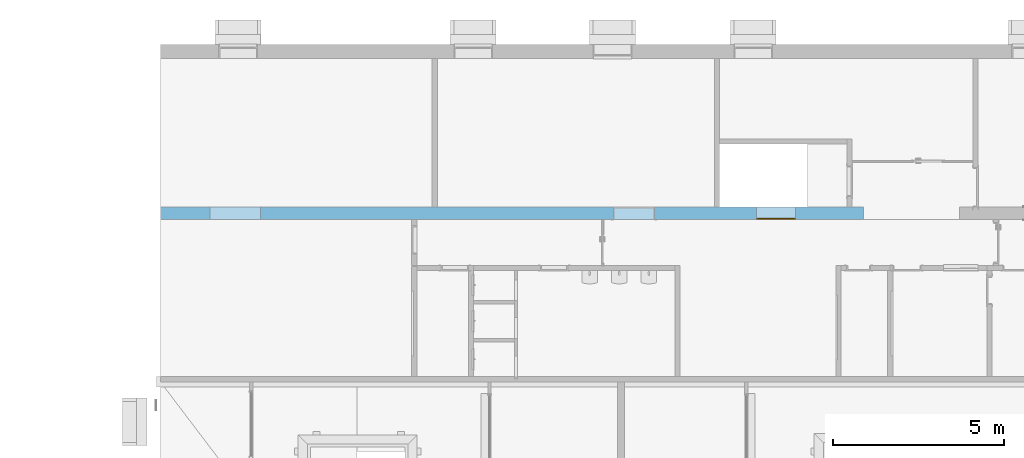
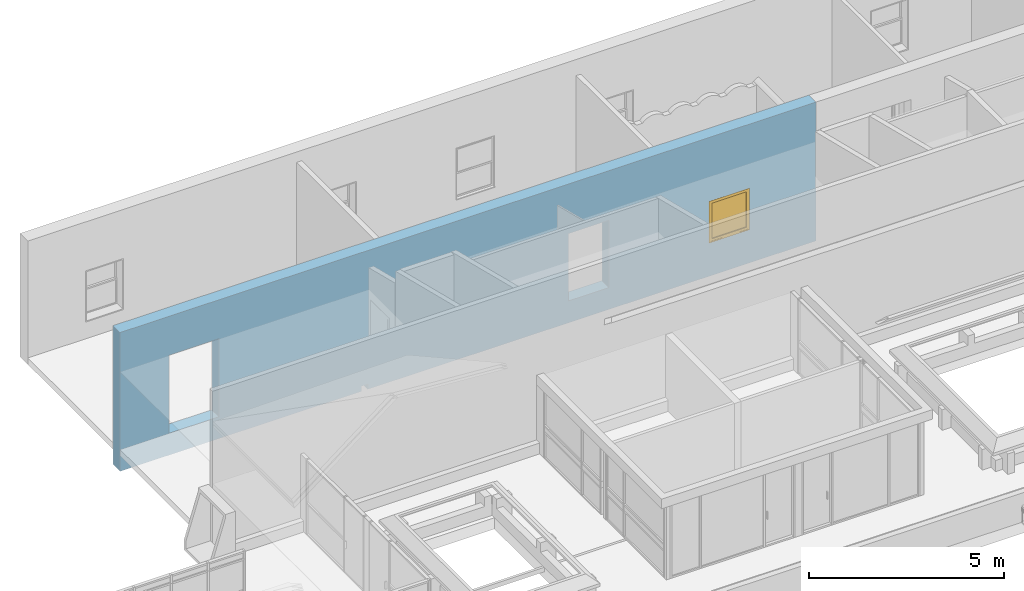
# One storey, part 139 of 153: 1 window, 4 openings, plus 1 element that does not belong to this part.
"""IFC4 building model written with IfcOpenShell, lengths in metres."""

import ifcopenshell
import ifcopenshell.guid

model = None  # the IFC model being written
_history = None  # IfcOwnerHistory: only IFC2X3 demands one
_inside = {}  # id of a spatial element -> (the spatial element, [elements in it])
_under = {}  # id of a project, library or spatial element -> (it, [spatial elements below it])
_declared = {}  # id of a project -> (the project, [libraries it declares])
_typed = {}  # id of a type object -> (the type object, [elements of that type])
_made_of = {}  # id of a material, layer set ... -> (it, [elements and type objects made of it])


def new_model(schema):
    """Start an empty IFC model of exactly this schema.

    Asked for "IFC4X3", IfcOpenShell would pick the latest addendum, in which some entities
    have other attributes; the version numbers below select the first issue.
    IFC2X3 requires an IfcOwnerHistory on every rooted entity: one is made here for all.
    """
    global model, _history
    if schema == "IFC4X3":
        model = ifcopenshell.file(schema_version=(4, 3, 0, 0))
    else:
        model = ifcopenshell.file(schema=schema)
    _inside.clear()
    _under.clear()
    _declared.clear()
    _typed.clear()
    _made_of.clear()
    _history = None
    if model.schema == "IFC2X3":
        org = make("IfcOrganization", Name="unknown")
        user = make(
            "IfcPersonAndOrganization",
            ThePerson=make("IfcPerson", FamilyName="unknown"),
            TheOrganization=org,
        )
        app = make(
            "IfcApplication",
            ApplicationDeveloper=org,
            Version="unknown",
            ApplicationFullName="unknown",
            ApplicationIdentifier="unknown",
        )
        _history = make(
            "IfcOwnerHistory",
            OwningUser=user,
            OwningApplication=app,
            ChangeAction="ADDED",
            CreationDate=0,
        )
    return model


def make(cls, **values):
    """One entity of the class cls with the attributes given. An attribute that is None is left unset."""
    return model.create_entity(
        cls, **{name: value for name, value in values.items() if value is not None}
    )


def entity(cls, *values):
    """Any entity or typed value of the class cls, its attributes in the order of the schema. None: left unset."""
    e = model.create_entity(cls)
    for i, value in enumerate(values):
        if value is not None:
            e[i] = value
    return e


def rooted(cls, **values):
    """An entity with a GlobalId (a new one), such as an element, a storey or a relation."""
    return make(cls, GlobalId=ifcopenshell.guid.new(), OwnerHistory=_history, **values)


def si_unit(unit_type, name, prefix=None):
    """IfcSIUnit, for example si_unit("LENGTHUNIT", "METRE", prefix="MILLI")."""
    return make("IfcSIUnit", UnitType=unit_type, Prefix=prefix, Name=name)


def converted_unit(unit_type, name, factor, base, dimensions=None, offset=None):
    """IfcConversionBasedUnit, such as the inch: factor (a typed value) times the base unit."""
    return make(
        "IfcConversionBasedUnit"
        if offset is None
        else "IfcConversionBasedUnitWithOffset",
        ConversionOffset=offset,
        Dimensions=None
        if dimensions is None
        else entity("IfcDimensionalExponents", *dimensions),
        UnitType=unit_type,
        Name=name,
        ConversionFactor=make(
            "IfcMeasureWithUnit", ValueComponent=factor, UnitComponent=base
        ),
    )


def derived_unit(unit_type, elements):
    """IfcDerivedUnit: a product of units, each with its exponent."""
    return make(
        "IfcDerivedUnit",
        Elements=[
            make("IfcDerivedUnitElement", Unit=unit, Exponent=power)
            for unit, power in elements
        ],
        UnitType=unit_type,
    )


def assignment(units):
    """IfcUnitAssignment: the units of a project."""
    return None if units is None else make("IfcUnitAssignment", Units=units)


def point(xyz):
    """IfcCartesianPoint."""
    return None if xyz is None else make("IfcCartesianPoint", Coordinates=xyz)


def direction(xyz):
    """IfcDirection."""
    return None if xyz is None else make("IfcDirection", DirectionRatios=xyz)


def frame(location, z_axis=None, x_axis=None):
    """IfcAxis2Placement3D, a coordinate frame: its origin and axes. An axis left out is left unset."""
    return make(
        "IfcAxis2Placement3D",
        Location=point(location),
        Axis=direction(z_axis),
        RefDirection=direction(x_axis),
    )


def origin():
    """The frame at (0, 0, 0) with its axes left unset."""
    return frame((0.0, 0.0, 0.0))


def place(relative_to, where):
    """IfcLocalPlacement: puts the frame where relative to a parent placement (None: the world)."""
    return make(
        "IfcLocalPlacement", PlacementRelTo=relative_to, RelativePlacement=where
    )


def context(
    kind, dimensions, precision=None, world=None, true_north=None, identifier=None
):
    """IfcGeometricRepresentationContext, for example the 3D "Model" context."""
    return make(
        "IfcGeometricRepresentationContext",
        ContextIdentifier=identifier,
        ContextType=kind,
        CoordinateSpaceDimension=dimensions,
        Precision=precision,
        WorldCoordinateSystem=world,
        TrueNorth=true_north,
    )


def subcontext(parent, identifier, kind, view, scale=None):
    """IfcGeometricRepresentationSubContext, for example "Body" below "Model"."""
    return make(
        "IfcGeometricRepresentationSubContext",
        ContextIdentifier=identifier,
        ContextType=kind,
        ParentContext=parent,
        TargetScale=scale,
        TargetView=view,
    )


def project(units=None, contexts=None):
    """IfcProject with its units and contexts."""
    return rooted(
        "IfcProject",
        Name="project",
        RepresentationContexts=contexts,
        UnitsInContext=assignment(units),
    )


def spatial(cls, under=None, at=None, **own):
    """A site, building, storey or space (cls), placed at a placement, below another one or the project."""
    s = rooted(cls, ObjectPlacement=at, **own)
    if under is not None:
        _under.setdefault(under.id(), (under, []))[1].append(s)
    return s


def point_list(points):
    """IfcCartesianPointList2D or 3D."""
    cls = (
        "IfcCartesianPointList2D" if len(points[0]) == 2 else "IfcCartesianPointList3D"
    )
    return make(cls, CoordList=points)


def indexed_curve(points, segments=None, self_intersect=None):
    """IfcIndexedPolyCurve: lines and arcs through numbered points (the first is 1)."""
    return make(
        "IfcIndexedPolyCurve",
        Points=point_list(points),
        Segments=segments,
        SelfIntersect=self_intersect,
    )


def outline(outer, holes=None, kind="AREA"):
    """IfcArbitraryClosedProfileDef: a profile drawn as a closed curve; with holes, ...WithVoids."""
    if holes is None:
        return make("IfcArbitraryClosedProfileDef", ProfileType=kind, OuterCurve=outer)
    return make(
        "IfcArbitraryProfileDefWithVoids",
        ProfileType=kind,
        OuterCurve=outer,
        InnerCurves=holes,
    )


def extrude(swept, where, along, depth):
    """IfcExtrudedAreaSolid: the profile swept, set in the frame where, extruded along a direction by depth."""
    return make(
        "IfcExtrudedAreaSolid",
        SweptArea=swept,
        Position=where,
        ExtrudedDirection=direction(along),
        Depth=depth,
    )


def polygons(points, faces, closed=None, point_numbers=None):
    """IfcPolygonalFaceSet: a face is its outer loop, then its inner loops; points numbered from 1."""
    made = []
    for loops in faces:
        if len(loops) == 1:
            made.append(make("IfcIndexedPolygonalFace", CoordIndex=loops[0]))
        else:
            made.append(
                make(
                    "IfcIndexedPolygonalFaceWithVoids",
                    CoordIndex=loops[0],
                    InnerCoordIndices=loops[1:],
                )
            )
    return make(
        "IfcPolygonalFaceSet",
        Coordinates=point_list(points),
        Closed=closed,
        Faces=made,
        PnIndex=point_numbers,
    )


def shape(context_of_items, identifier, shape_type, items):
    """IfcShapeRepresentation: the items that make up one representation, for example the "Body"."""
    return make(
        "IfcShapeRepresentation",
        ContextOfItems=context_of_items,
        RepresentationIdentifier=identifier,
        RepresentationType=shape_type,
        Items=items,
    )


def source(mapping_origin, context_of_items, identifier, shape_type, items):
    """IfcRepresentationMap: a shape defined once, which mapped items show again and again."""
    return make(
        "IfcRepresentationMap",
        MappingOrigin=mapping_origin,
        MappedRepresentation=shape(context_of_items, identifier, shape_type, items),
    )


def transform(
    local_origin,
    x_axis=None,
    y_axis=None,
    z_axis=None,
    scale=None,
    scale2=None,
    scale3=None,
    uniform=True,
):
    """IfcCartesianTransformationOperator3D, or its non-uniform kind. x_axis, y_axis, z_axis: its Axis1, 2, 3."""
    if uniform:
        return make(
            "IfcCartesianTransformationOperator3D",
            Axis1=direction(x_axis),
            Axis2=direction(y_axis),
            LocalOrigin=point(local_origin),
            Scale=scale,
            Axis3=direction(z_axis),
        )
    return make(
        "IfcCartesianTransformationOperator3DnonUniform",
        Axis1=direction(x_axis),
        Axis2=direction(y_axis),
        LocalOrigin=point(local_origin),
        Scale=scale,
        Axis3=direction(z_axis),
        Scale2=scale2,
        Scale3=scale3,
    )


def mapped(mapping_source, mapping_target):
    """IfcMappedItem: shows the shape of a source again, moved by a transform."""
    return make(
        "IfcMappedItem", MappingSource=mapping_source, MappingTarget=mapping_target
    )


def material(Name=None, Category=None):
    """IfcMaterial."""
    return make("IfcMaterial", Name=Name, Category=Category)


def constituent(of_material, Name=None, Category=None, fraction=None):
    """IfcMaterialConstituent: one of the materials an element consists of."""
    return make(
        "IfcMaterialConstituent",
        Name=Name,
        Material=of_material,
        Fraction=fraction,
        Category=Category,
    )


def constituent_set(constituents=None, Name=None):
    """IfcMaterialConstituentSet."""
    return make(
        "IfcMaterialConstituentSet", Name=Name, MaterialConstituents=constituents
    )


def made_of(thing, what):
    """Note that an element or type object is made of a material, layer set ...; save() writes the relation."""
    if what is not None:
        _made_of.setdefault(what.id(), (what, []))[1].append(thing)
    return thing


def type_object(cls, material=None, **own):
    """A type object (cls), such as IfcWallType, which elements share."""
    return made_of(rooted(cls, **own), material)


def type_shapes(of_type, sources):
    """Give a type object the sources (RepresentationMaps) that its elements show as mapped items."""
    of_type.RepresentationMaps = sources


def element(
    cls,
    number,
    at=None,
    inside=None,
    cuts=None,
    type_object=None,
    material=None,
    context=None,
    identifier="Body",
    shape_type=None,
    held_by="IfcProductDefinitionShape",
    body=None,
    shapes=None,
    **own,
):
    """One element of the class cls, such as IfcWall. Its Tag is "e" and its number.

    at: its placement. inside: the storey or other place that contains it. cuts: it is an
    opening in that element (IfcRelVoidsElement). A single representation is given by context,
    identifier, shape_type and body (its items); several are given by shapes. held_by: the class
    of the entity that holds the representations. save() writes the other relations.
    """
    e = rooted(cls, Tag="e%d" % number, ObjectPlacement=at, **own)
    if body is not None:
        shapes = [shape(context, identifier, shape_type, body)]
    if shapes is not None:
        e.Representation = make(held_by, Representations=shapes)
    if inside is not None:
        _inside.setdefault(inside.id(), (inside, []))[1].append(e)
    if cuts is not None:
        rooted(
            "IfcRelVoidsElement", RelatingBuildingElement=cuts, RelatedOpeningElement=e
        )
    if type_object is not None:
        _typed.setdefault(type_object.id(), (type_object, []))[1].append(e)
    return made_of(e, material)


def fill(opening, filler):
    """IfcRelFillsElement: the door or window that sits in an opening."""
    return rooted(
        "IfcRelFillsElement",
        RelatingOpeningElement=opening,
        RelatedBuildingElement=filler,
    )


def aggregate(whole, parts):
    """IfcRelAggregates: a whole, such as a stair, and the parts it consists of."""
    return rooted("IfcRelAggregates", RelatingObject=whole, RelatedObjects=parts)


def save(model, path):
    """Write the relations noted so far, then the file.

    IfcRelAggregates (storeys below a building ...), IfcRelContainedInSpatialStructure (elements
    in a storey), IfcRelDefinesByType, IfcRelAssociatesMaterial and IfcRelDeclares: one each for
    every whole, place, type object, material and project.
    """
    for whole, parts in _under.values():
        aggregate(whole, parts)
    for where, things in _inside.values():
        rooted(
            "IfcRelContainedInSpatialStructure",
            RelatedElements=things,
            RelatingStructure=where,
        )
    for kind, things in _typed.values():
        rooted("IfcRelDefinesByType", RelatedObjects=things, RelatingType=kind)
    for what, things in _made_of.values():
        rooted("IfcRelAssociatesMaterial", RelatedObjects=things, RelatingMaterial=what)
    for by, libraries in _declared.values():
        rooted("IfcRelDeclares", RelatingContext=by, RelatedDefinitions=libraries)
    model.write(path)


model = new_model("IFC4")

# Units and contexts
model_context = context("Model", 3, precision=1e-05, world=origin(), true_north=direction((6.123031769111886e-17, 1.0)))
body_context = subcontext(model_context, "Body", "Model", "MODEL_VIEW")
ifc_project = project(units=[si_unit("LENGTHUNIT", "METRE"), si_unit("AREAUNIT", "SQUARE_METRE"), si_unit("VOLUMEUNIT", "CUBIC_METRE"), converted_unit("PLANEANGLEUNIT", "DEGREE", entity("IfcRatioMeasure", 0.017453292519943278), si_unit("PLANEANGLEUNIT", "RADIAN"), dimensions=[0, 0, 0, 0, 0, 0, 0]), si_unit("MASSUNIT", "GRAM", prefix="KILO"), derived_unit("MASSDENSITYUNIT", [(si_unit("MASSUNIT", "GRAM", prefix="KILO"), 1), (si_unit("LENGTHUNIT", "METRE"), -3)]), derived_unit("MOMENTOFINERTIAUNIT", [(si_unit("LENGTHUNIT", "METRE"), 4)]), si_unit("TIMEUNIT", "SECOND"), si_unit("FREQUENCYUNIT", "HERTZ"), si_unit("THERMODYNAMICTEMPERATUREUNIT", "DEGREE_CELSIUS"), derived_unit("THERMALTRANSMITTANCEUNIT", [(si_unit("MASSUNIT", "GRAM", prefix="KILO"), 1), (si_unit("THERMODYNAMICTEMPERATUREUNIT", "KELVIN"), -1), (si_unit("TIMEUNIT", "SECOND"), -3)]), derived_unit("VOLUMETRICFLOWRATEUNIT", [(si_unit("LENGTHUNIT", "METRE"), 3), (si_unit("TIMEUNIT", "SECOND"), -1)]), derived_unit("MASSFLOWRATEUNIT", [(si_unit("MASSUNIT", "GRAM", prefix="KILO"), 1), (si_unit("TIMEUNIT", "SECOND"), -1)]), derived_unit("ROTATIONALFREQUENCYUNIT", [(si_unit("TIMEUNIT", "SECOND"), -1)]), si_unit("ELECTRICCURRENTUNIT", "AMPERE"), si_unit("ELECTRICVOLTAGEUNIT", "VOLT"), si_unit("POWERUNIT", "WATT"), si_unit("FORCEUNIT", "NEWTON", prefix="KILO"), si_unit("ILLUMINANCEUNIT", "LUX"), si_unit("LUMINOUSFLUXUNIT", "LUMEN"), si_unit("LUMINOUSINTENSITYUNIT", "CANDELA"), derived_unit("USERDEFINED", [(si_unit("MASSUNIT", "GRAM", prefix="KILO"), -1), (si_unit("LENGTHUNIT", "METRE"), -2), (si_unit("TIMEUNIT", "SECOND"), 3), (si_unit("LUMINOUSFLUXUNIT", "LUMEN"), 1)]), derived_unit("SOUNDPOWERUNIT", [(si_unit("MASSUNIT", "GRAM", prefix="KILO"), 1), (si_unit("LENGTHUNIT", "METRE"), 2), (si_unit("TIMEUNIT", "SECOND"), -3)]), derived_unit("SOUNDPRESSUREUNIT", [(si_unit("MASSUNIT", "GRAM", prefix="KILO"), 1), (si_unit("LENGTHUNIT", "METRE"), -1), (si_unit("TIMEUNIT", "SECOND"), -2)]), derived_unit("LINEARVELOCITYUNIT", [(si_unit("LENGTHUNIT", "METRE"), 1), (si_unit("TIMEUNIT", "SECOND"), -1)]), si_unit("PRESSUREUNIT", "PASCAL"), derived_unit("USERDEFINED", [(si_unit("LENGTHUNIT", "METRE"), -2), (si_unit("MASSUNIT", "GRAM", prefix="KILO"), 1), (si_unit("TIMEUNIT", "SECOND"), -2)]), derived_unit("LINEARFORCEUNIT", [(si_unit("MASSUNIT", "GRAM", prefix="KILO"), 1), (si_unit("LENGTHUNIT", "METRE"), 1), (si_unit("TIMEUNIT", "SECOND"), -2), (si_unit("LENGTHUNIT", "METRE"), -1)]), derived_unit("PLANARFORCEUNIT", [(si_unit("MASSUNIT", "GRAM", prefix="KILO"), 1), (si_unit("LENGTHUNIT", "METRE"), 1), (si_unit("TIMEUNIT", "SECOND"), -2), (si_unit("LENGTHUNIT", "METRE"), -2)])], contexts=[model_context])

# Site, building, storey
site_placement = place(None, origin())
site = spatial("IfcSite", under=ifc_project, at=site_placement, Name="Superficie", CompositionType="ELEMENT")
building_placement = place(site_placement, origin())
building = spatial("IfcBuilding", under=site, at=building_placement, CompositionType="ELEMENT")
storey_placement = place(building_placement, frame((0.0, 0.0, 3.5999999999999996)))
storey = spatial("IfcBuildingStorey", under=building, at=storey_placement, Name="Nivel 1", CompositionType="ELEMENT", Elevation=3.5999999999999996)

# Wall, openings, window
ifc_material_1 = material(Name="Muro por defecto", Category="Varios")
wall_type = type_object("IfcWallType", Name="Muro básico:Por defecto - 36 cm 2", PredefinedType="STANDARD")
wall_placement = place(storey_placement, frame((-22.643200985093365, 10.5508292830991, -0.16372451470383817)))
wall = element("IfcWall", 1, at=wall_placement, inside=storey, type_object=wall_type, material=ifc_material_1, Name="Muro básico:Por defecto - 36 cm 2", ObjectType="Muro básico:Por defecto - 36 cm 2", PredefinedType="NOTDEFINED", context=body_context, shape_type="Tessellation", body=[
    polygons([(1.4500000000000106, -0.18000000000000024, 3.122124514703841), (2.9200000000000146, -0.18000000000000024, 3.122124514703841), (2.9200000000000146, -0.18000000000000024, 0.6837245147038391), (1.4500000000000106, -0.18000000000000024, 0.6837245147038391), (13.244202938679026, -0.18000000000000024, 0.683724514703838), (13.244202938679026, -0.18000000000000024, 2.783724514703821), (14.444202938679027, -0.1800000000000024, 2.783724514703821), (14.444202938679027, -0.1800000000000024, 0.683724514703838), (20.55540000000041, -0.1800000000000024, -5.414335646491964e-16), (20.555400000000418, -0.1800000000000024, 0.16372451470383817), (20.555400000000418, -0.1800000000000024, 4.333724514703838), (2.5539128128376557e-15, -0.18000000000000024, 4.333724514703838), (6.885381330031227e-15, -0.18000000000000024, -5.414335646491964e-16), (7.139999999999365, -0.18000000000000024, -5.414335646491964e-16), (7.139999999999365, -0.18000000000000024, 0.16372451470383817), (7.319999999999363, -0.1800000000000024, 0.16372451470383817), (7.319999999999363, -0.1800000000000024, -5.414335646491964e-16), (18.574202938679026, -0.1800000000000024, 2.3137245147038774), (18.574202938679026, -0.1800000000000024, 1.0637245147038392), (17.424202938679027, -0.18000000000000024, 1.0637245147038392), (17.424202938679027, -0.18000000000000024, 2.3137245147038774), (2.9200000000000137, 0.18000000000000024, 3.122124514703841), (1.4500000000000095, 0.18000000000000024, 3.122124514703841), (1.4500000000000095, 0.18000000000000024, 0.6837245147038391), (2.9200000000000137, 0.18000000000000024, 0.6837245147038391), (13.244202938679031, 0.18000000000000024, 2.783724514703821), (13.244202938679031, 0.18000000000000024, 0.6837245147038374), (14.444202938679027, 0.17999999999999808, 0.683724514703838), (14.444202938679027, 0.17999999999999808, 2.783724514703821), (20.55540000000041, 0.17999999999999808, 4.333724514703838), (20.55540000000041, 0.17999999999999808, 0.16372451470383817), (20.555400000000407, 0.17999999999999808, -5.414335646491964e-16), (15.390000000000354, 0.18000000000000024, -5.414335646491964e-16), (15.390000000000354, 0.18000000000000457, 0.3637245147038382), (15.210000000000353, 0.1800000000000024, 0.3637245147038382), (15.210000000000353, 0.17999999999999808, -5.414335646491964e-16), (7.319999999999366, 0.17999999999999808, -5.414335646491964e-16), (7.319999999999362, 0.17999999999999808, 0.16372451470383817), (7.1399999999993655, 0.18000000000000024, 0.16372451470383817), (7.1399999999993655, 0.18000000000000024, -5.414335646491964e-16), (5.771177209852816e-15, 0.18000000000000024, -5.414335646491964e-16), (5.771177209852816e-15, 0.18000000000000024, 4.333724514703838), (18.574202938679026, 0.17999999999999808, 1.0637245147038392), (18.574202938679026, 0.17999999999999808, 2.3137245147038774), (17.424202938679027, 0.18000000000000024, 2.3137245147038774), (17.424202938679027, 0.18000000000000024, 1.0637245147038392), (15.390000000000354, -0.08287037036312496, 0.3637245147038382), (15.390000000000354, -0.08287037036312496, -5.414335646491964e-16), (15.210000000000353, -0.08287037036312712, 0.3637245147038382), (15.210000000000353, -0.08287037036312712, -5.414335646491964e-16)], [[[9, 10, 11, 12, 13, 14, 15, 16, 17], [1, 2, 3, 4], [5, 6, 7, 8], [18, 19, 20, 21]], [[30, 31, 32, 33, 34, 35, 36, 37, 38, 39, 40, 41, 42], [22, 23, 24, 25], [26, 27, 28, 29], [43, 44, 45, 46]], [[13, 41, 40, 14]], [[11, 10, 9, 32, 31, 30]], [[12, 11, 30, 42]], [[1, 23, 22, 2]], [[3, 25, 24, 4]], [[2, 22, 25, 3]], [[23, 1, 4, 24]], [[13, 12, 42, 41]], [[6, 5, 27, 26]], [[7, 6, 26, 29]], [[8, 7, 29, 28]], [[5, 8, 28, 27]], [[47, 34, 33, 48]], [[35, 49, 50, 36]], [[49, 47, 48, 50]], [[34, 47, 49, 35]], [[44, 43, 19, 18]], [[45, 44, 18, 21]], [[46, 45, 21, 20]], [[43, 46, 20, 19]], [[16, 38, 37, 17]], [[39, 15, 14, 40]], [[38, 16, 15, 39]], [[32, 9, 17, 37, 36, 50, 48, 33]]], closed=True),
])
opening_1_placement = place(storey_placement, frame((-22.643200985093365, 10.5508292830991, -0.16372451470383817)))
element("IfcOpeningElement", 2, at=opening_1_placement, cuts=wall, Name="Muro básico:Por defecto - 36 cm 2:1", PredefinedType="OPENING", context=body_context, shape_type="SweptSolid", body=[
    extrude(outline(indexed_curve([(-0.13143518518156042, -0.1818622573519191), (0.13143518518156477, -0.1818622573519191), (0.13143518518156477, 0.18186225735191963), (-0.13143518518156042, 0.18186225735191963), (-0.13143518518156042, -0.1818622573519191)], self_intersect=False)), frame((15.210000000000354, 0.048564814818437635, 0.1818622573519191), z_axis=(1.0, 0.0, 0.0), x_axis=(0.0, -1.0, 0.0)), (0.0, 0.0, 1.0), 0.18000000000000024),
])
opening_2_placement = place(wall_placement, origin())
element("IfcOpeningElement", 3, at=opening_2_placement, cuts=wall, Name="Muro básico:Por defecto - 36 cm 2", PredefinedType="OPENING", context=body_context, shape_type="SweptSolid", body=[
    extrude(outline(indexed_curve([(-1.2192, -0.7350000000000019), (1.2192000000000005, -0.7350000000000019), (1.2192000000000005, 0.7350000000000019), (-1.2192, 0.7350000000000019), (-1.2192, -0.7350000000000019)], self_intersect=False)), frame((2.1850000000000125, -0.18000000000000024, 1.9029245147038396), z_axis=(0.0, 1.0, 0.0), x_axis=(0.0, 0.0, -1.0)), (0.0, 0.0, 1.0), 0.3600000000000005),
])
opening_3_placement = place(wall_placement, frame((13.244202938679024, -0.18000000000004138, 0.683724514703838)))
element("IfcOpeningElement", 4, at=opening_3_placement, cuts=wall, Name="Puerta de 1 hoja:120 x 210 cm 3:1", PredefinedType="OPENING", context=body_context, shape_type="SweptSolid", body=[
    extrude(outline(indexed_curve([(0.0, 1.082867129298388e-15), (2.099999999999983, 1.082867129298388e-15), (2.099999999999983, 1.2000000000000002), (0.0, 1.2000000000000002), (0.0, 1.082867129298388e-15)], self_intersect=False)), frame((0.0, 0.0, 0.0), z_axis=(0.0, 1.0, 0.0), x_axis=(0.0, 0.0, 1.0)), (0.0, 0.0, 1.0), 0.36),
])
opening_4_placement = place(wall_placement, frame((17.424202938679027, -0.18000000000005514, 1.0637245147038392)))
opening_4 = element("IfcOpeningElement", 5, at=opening_4_placement, cuts=wall, Name="Ventana simple fija con cubrejuntas interior:1.15 x 1.20mm 2:1", PredefinedType="OPENING", context=body_context, shape_type="SweptSolid", body=[
    extrude(outline(indexed_curve([(0.0, 1.1499999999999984), (0.0, -2.408880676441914e-30), (1.250000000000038, -2.408880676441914e-30), (1.250000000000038, 1.1499999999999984), (0.0, 1.1499999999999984)], self_intersect=False)), frame((0.0, 0.0, 0.0), z_axis=(0.0, 1.0, 0.0), x_axis=(0.0, 0.0, 1.0)), (0.0, 0.0, 1.0), 0.36),
])
ifc_material_2 = material(Name="Madera - Castaño", Category="Madera")
ifc_constituent_1 = constituent(ifc_material_2, Name="Madera - Castaño", Category="Madera")
ifc_material_3 = material(Name="Vidrio", Category="Vidrio")
ifc_constituent_2 = constituent(ifc_material_3, Name="Vidrio", Category="Vidrio")
ifc_constituent_set_1 = constituent_set(constituents=[ifc_constituent_1, ifc_constituent_2], Name="MaterialConstituentSet")
ifc_constituent_3 = constituent(ifc_material_2, Name="Marco/montante", Category="Madera")
ifc_constituent_4 = constituent(ifc_material_3, Name="Cristal", Category="Vidrio")
ifc_constituent_set_2 = constituent_set(constituents=[ifc_constituent_3, ifc_constituent_4], Name="MaterialConstituentSet")
window_type = type_object("IfcWindowType", Name="Ventana simple fija con cubrejuntas interior:1.15 x 1.20mm 2", PartitioningType="NOTDEFINED", PredefinedType="WINDOW", material=ifc_constituent_set_2)
shared_shape = source(origin(), body_context, "Body", "Tessellation", [
    polygons([(1.6852119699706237e-14, 0.049999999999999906, 1.2500000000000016), (1.6919798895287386e-14, 0.04999999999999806, -6.767919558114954e-16), (1.6987478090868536e-14, -6.091127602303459e-15, -6.767919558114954e-16), (1.6919798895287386e-14, -1.0151879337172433e-16, 1.2500000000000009), (1.1150000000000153, -1.0151879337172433e-16, 1.2150000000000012), (1.1150000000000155, -1.0151879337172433e-16, 0.05499999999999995), (0.03500000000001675, -1.0151879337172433e-16, 0.05499999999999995), (0.035000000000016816, -1.0151879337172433e-16, 1.2150000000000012), (1.1500000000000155, -4.839062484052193e-15, -6.767919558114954e-16), (1.1500000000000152, -1.0151879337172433e-16, 1.2500000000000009), (1.1500000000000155, 0.049999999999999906, -6.767919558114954e-16), (1.1500000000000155, 0.049999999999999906, 1.2500000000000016), (0.06000000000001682, 0.049999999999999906, 1.1900000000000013), (0.06000000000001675, 0.049999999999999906, 0.08000000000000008), (1.0900000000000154, 0.049999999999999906, 0.07999999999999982), (1.0900000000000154, 0.049999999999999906, 1.1900000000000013), (0.06000000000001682, 0.039999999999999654, 1.1900000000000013), (0.06000000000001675, 0.039999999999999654, 0.07999999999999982), (1.0900000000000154, 0.039999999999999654, 0.07999999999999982), (1.0900000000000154, 0.039999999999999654, 1.1900000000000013), (0.035000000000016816, 0.039999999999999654, 1.2150000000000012), (0.03500000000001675, 0.039999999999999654, 0.05499999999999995), (1.1150000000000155, 0.039999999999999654, 0.05499999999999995), (1.1150000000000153, 0.039999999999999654, 1.2150000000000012)], [[[1, 2, 3, 4]], [[3, 9, 10, 4], [5, 6, 7, 8]], [[9, 3, 2, 11]], [[11, 2, 1, 12], [13, 14, 15, 16]], [[17, 18, 14, 13]], [[18, 19, 15, 14]], [[21, 22, 23, 24], [20, 19, 18, 17]], [[8, 7, 22, 21]], [[7, 6, 23, 22]], [[16, 15, 19, 20]], [[24, 23, 6, 5]], [[10, 9, 11, 12]], [[12, 1, 4, 10]], [[20, 17, 13, 16]], [[5, 8, 21, 24]]], closed=True),
    polygons([(0.060000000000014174, -1.7461232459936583e-14, 1.1900000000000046), (0.060000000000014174, -1.7461232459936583e-14, 0.07999999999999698), (0.06000000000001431, 0.02600000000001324, 0.07999999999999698), (0.06000000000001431, 0.02600000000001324, 1.1900000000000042), (1.0900000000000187, 0.02600000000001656, 1.1900000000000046), (1.0900000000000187, 0.026000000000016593, 0.07999999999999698), (0.03500000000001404, 0.02600000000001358, 1.2150000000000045), (1.1150000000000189, 0.02600000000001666, 1.2150000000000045), (1.1150000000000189, 0.02600000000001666, 0.054999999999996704), (0.0350000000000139, 0.026000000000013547, 0.054999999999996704), (1.090000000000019, -1.4517187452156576e-14, 0.07999999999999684), (1.090000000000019, -1.4517187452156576e-14, 1.1900000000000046), (1.115000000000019, -1.4415668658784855e-14, 1.2150000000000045), (0.03500000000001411, -1.793498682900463e-14, 1.2150000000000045), (0.03500000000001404, -1.793498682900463e-14, 0.054999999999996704), (1.115000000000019, -1.4415668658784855e-14, 0.054999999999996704)], [[[1, 2, 3, 4]], [[7, 8, 9, 10], [5, 4, 3, 6]], [[2, 11, 6, 3]], [[13, 14, 15, 16], [1, 12, 11, 2]], [[7, 10, 15, 14]], [[10, 9, 16, 15]], [[11, 12, 5, 6]], [[9, 8, 13, 16]], [[12, 1, 4, 5]], [[8, 7, 14, 13]]], closed=True),
    polygons([(1.105000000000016, 0.026000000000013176, 0.06499999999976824), (0.04500000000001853, 0.026000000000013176, 0.06499999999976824), (0.0450000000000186, 0.04000000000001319, 0.06499999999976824), (1.105000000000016, 0.04000000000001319, 0.06499999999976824), (1.105000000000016, 0.026000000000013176, 1.2049999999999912), (1.105000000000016, 0.04000000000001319, 1.2049999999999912), (0.0450000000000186, 0.04000000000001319, 1.2049999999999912), (0.04500000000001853, 0.026000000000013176, 1.2049999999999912)], [[[1, 2, 3, 4]], [[5, 1, 4, 6]], [[6, 4, 3, 7]], [[7, 3, 2, 8]], [[8, 2, 1, 5]], [[5, 6, 7, 8]]], closed=True),
    polygons([(0.010000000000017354, -0.004999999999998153, 1.2400000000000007), (0.010000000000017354, -0.004999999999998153, 0.009999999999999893), (0.010000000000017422, -1.0151879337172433e-16, 0.009999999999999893), (0.010000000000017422, -1.0151879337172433e-16, 1.2400000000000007), (1.1400000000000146, -1.0151879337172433e-16, 1.2400000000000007), (1.1400000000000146, -1.0151879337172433e-16, 0.009999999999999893), (-0.02499999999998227, -1.0151879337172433e-16, 1.2750000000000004), (1.1750000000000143, -1.0151879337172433e-16, 1.2750000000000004), (1.1750000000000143, -1.0151879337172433e-16, -0.02499999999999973), (-0.02499999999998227, -1.0151879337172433e-16, -0.02499999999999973), (1.1400000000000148, -0.004999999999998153, 0.009999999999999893), (1.1400000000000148, -0.004999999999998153, 1.2400000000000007), (1.1750000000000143, -0.004999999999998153, 1.2750000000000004), (-0.02499999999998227, -0.004999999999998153, 1.2750000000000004), (-0.02499999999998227, -0.004999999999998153, -0.02499999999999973), (1.1750000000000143, -0.004999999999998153, -0.02499999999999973)], [[[1, 2, 3, 4]], [[7, 8, 9, 10], [5, 4, 3, 6]], [[2, 11, 6, 3]], [[13, 14, 15, 16], [1, 12, 11, 2]], [[7, 10, 15, 14]], [[10, 9, 16, 15]], [[11, 12, 5, 6]], [[9, 8, 13, 16]], [[12, 1, 4, 5]], [[8, 7, 14, 13]]], closed=True),
])
type_shapes(window_type, [shared_shape])
window_placement = place(opening_4_placement, origin())
window = element("IfcWindow", 6, at=window_placement, inside=storey, type_object=window_type, material=ifc_constituent_set_1, Name="Ventana simple fija con cubrejuntas interior:1.15 x 1.20mm 2", ObjectType="Ventana simple fija con cubrejuntas interior:1.15 x 1.20mm 2", OverallHeight=1.250000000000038, OverallWidth=1.149999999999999, PartitioningType="NOTDEFINED", PredefinedType="WINDOW", context=body_context, shape_type="MappedRepresentation", body=[
    mapped(shared_shape, transform((0.0, 0.0, 0.0), scale=1.0)),
])
fill(opening_4, window)

save(model, "model.ifc")
